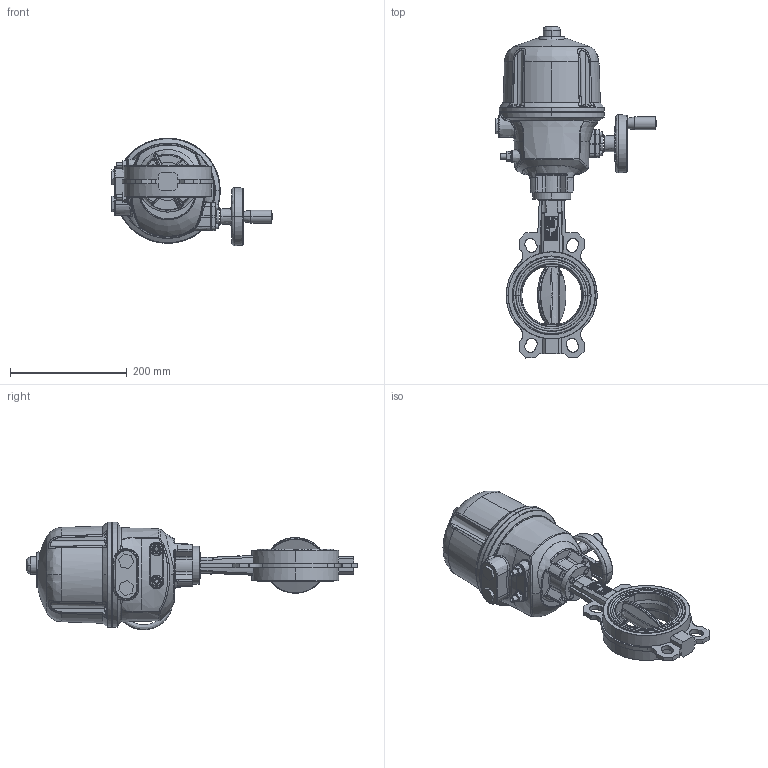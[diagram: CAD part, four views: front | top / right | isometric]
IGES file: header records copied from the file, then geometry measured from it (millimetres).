
Start section: SolidWorks IGES file using analytic representation for surfaces
Global section: file name: H:\BE FABRICATION\BE SERIE\VP\VP SERIE\F072 VPG\plan 3D\VPG-BX4\WAFER\DN100\VPG444X-BX4XX0100.igs; native system: SolidWorks 2020; preprocessor: SolidWorks 2020; author: k.gigout; date: 220920.115155; units: millimetre
Bounding box: 275.33 x 568.99 x 184.41 mm (x, y, z)
Surface area: 340441.8 mm2 (no closed solid volume)
Topology: 0 solids, 0 shells, 1058 faces, 19802 edges, 19761 vertices
Faces by surface type: bspline 742, revolution 316
